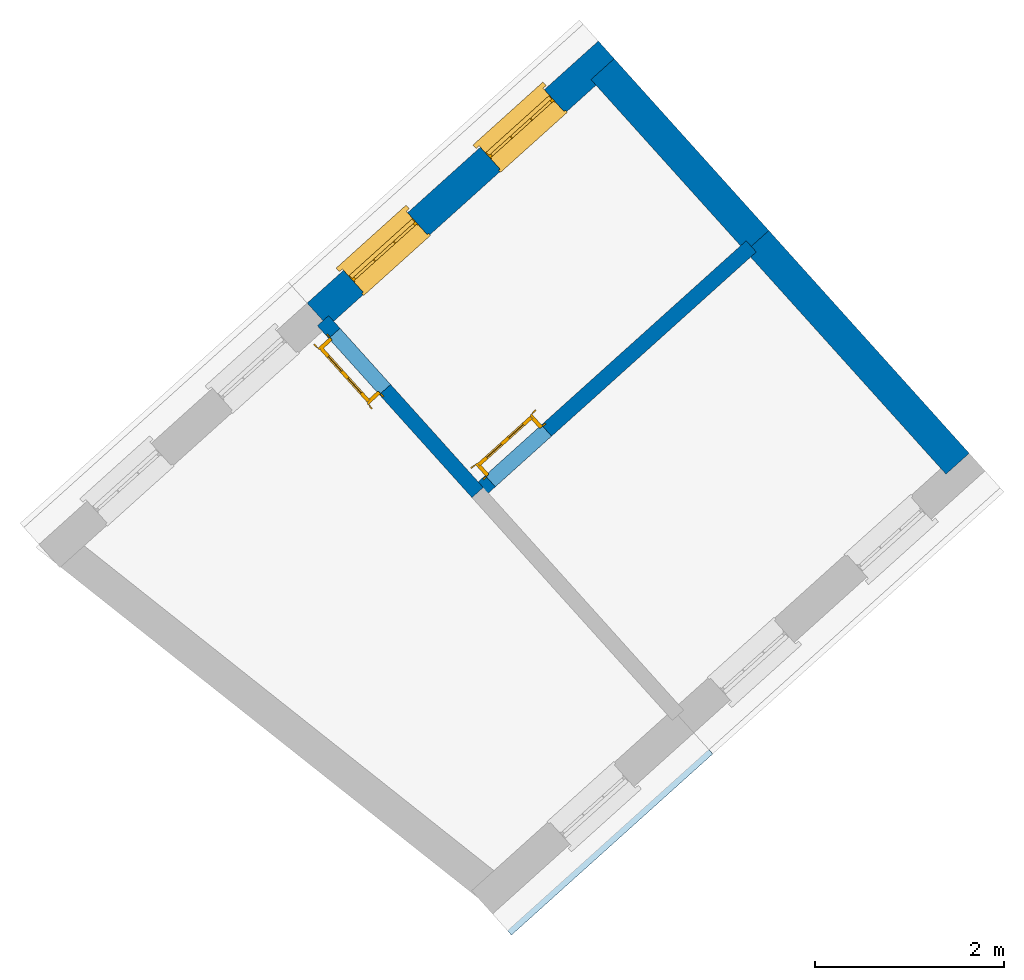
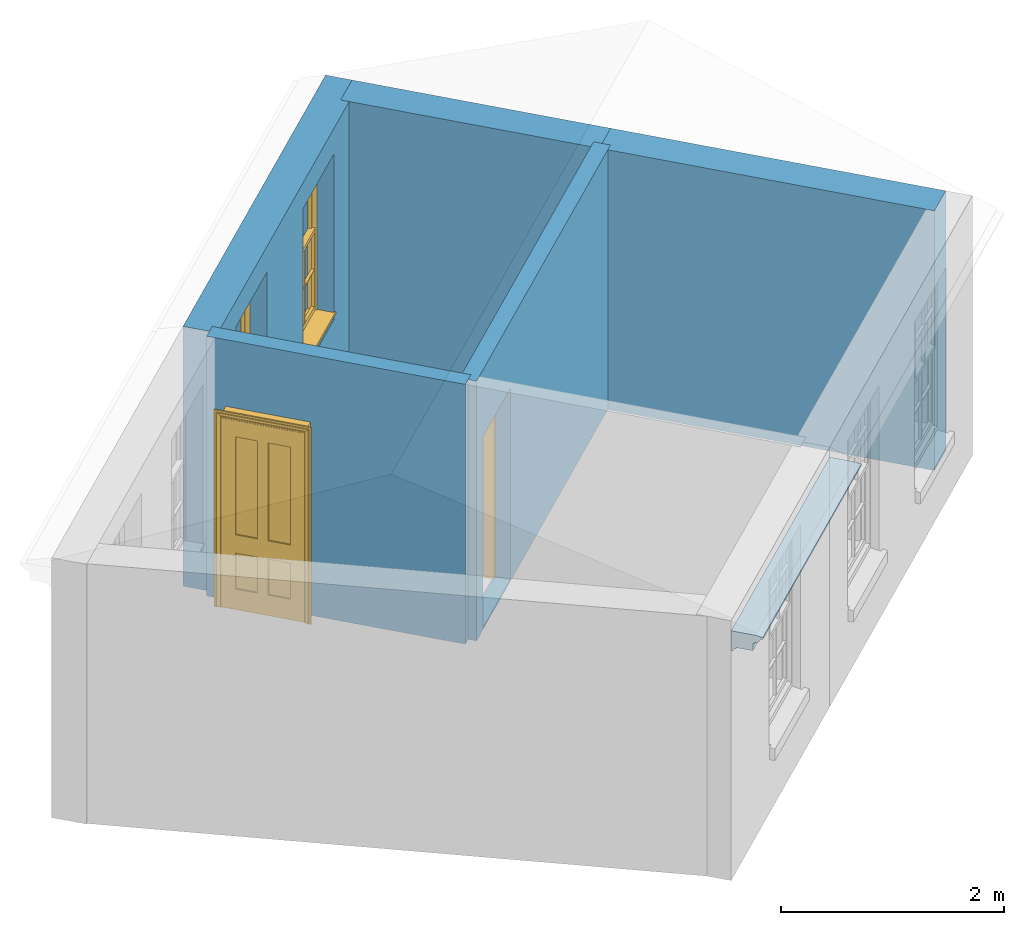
# One storey, part 2 of 3: 5 walls, 2 doors, 2 windows, 1 roof, 4 openings.
"""IFC4 building model written with IfcOpenShell, lengths in metres."""

from ifc_helpers import new_model, si_unit, frame, origin, origin_with_axes, place, context, subcontext, project, spatial, polyline, outline, extrude, clip, halfspace, faceted_brep, source, transform, mapped, material, layer, layer_set, layer_usage, material_profile, profile_set, profile_usage, type_object, type_shapes, element, fill, save


model = new_model("IFC4")

# Units and contexts
model_context = context("Model", 3, world=origin_with_axes())
body_context = subcontext(model_context, "Body", "Model", "MODEL_VIEW")
ifc_project = project(units=[si_unit("PLANEANGLEUNIT", "RADIAN"), si_unit("MASSUNIT", "GRAM", prefix="KILO"), si_unit("FORCEUNIT", "NEWTON", prefix="KILO"), si_unit("LENGTHUNIT", "METRE"), si_unit("AREAUNIT", "SQUARE_METRE"), si_unit("VOLUMEUNIT", "CUBIC_METRE")], contexts=[model_context, model_context])

# Sites, building, storey
site_1_placement = place(None, origin_with_axes())
site_1 = spatial("IfcSite", under=ifc_project, at=site_1_placement, Name="Tamar")
site_2_placement = place(site_1_placement, origin_with_axes())
site_2 = spatial("IfcSite", under=site_1, at=site_2_placement, Name="Site plot-6", CompositionType="ELEMENT")
building_placement = place(None, origin_with_axes())
building = spatial("IfcBuilding", under=site_2, at=building_placement, Name="Building plot-6", CompositionType="ELEMENT")
storey_placement = place(None, frame((0.0, 0.0, 31.7), z_axis=(0.0, 0.0, 1.0), x_axis=(1.0, 0.0, 0.0)))
storey = spatial("IfcBuildingStorey", under=building, at=storey_placement, Name="plot-6 2", CompositionType="ELEMENT", Elevation=31.7)

# Wall, openings, windows
ifc_material_1 = material(Name="Masonry")
ifc_layer_1 = layer(ifc_material_1, 0.33, ventilated=False)
ifc_layer_set_1 = layer_set([ifc_layer_1], Name="exterior_0.08_0.25")
ifc_layer_usage_1 = layer_usage(ifc_layer_set_1, "AXIS2", "POSITIVE", -0.25)
wall_type_1 = type_object("IfcWallType", Name="exterior_0.08_0.25", PredefinedType="SOLIDWALL", material=ifc_layer_set_1)
wall_1_placement = place(storey_placement, frame((236.903086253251, 284.792318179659, 0.0), z_axis=(0.0, 0.0, 1.0), x_axis=(-0.743394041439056, -0.668853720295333, 0.0)))
wall_1 = element("IfcWall", 1, at=wall_1_placement, inside=storey, type_object=wall_type_1, material=ifc_layer_usage_1, Name="exterior", context=body_context, shape_type="SweptSolid", body=[
    extrude(outline(polyline([(-0.250000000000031, 0.0799999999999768), (-0.250000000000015, -0.250000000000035), (3.89063342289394, -0.250000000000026), (3.89063342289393, 0.0799999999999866), (-0.250000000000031, 0.0799999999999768)])), origin_with_axes(), (0.0, 0.0, 1.0), 2.85),
])
opening_1_placement = place(wall_1_placement, frame((0.51765835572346, 0.0, 0.750000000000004)))
opening_1 = element("IfcOpeningElement", 2, at=opening_1_placement, cuts=wall_1, Name="My Opening", ObjectType="Opening", context=body_context, shape_type="SweptSolid", body=[
    extrude(outline(polyline([(0.0, -0.270000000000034), (0.910000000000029, -0.269999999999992), (0.910000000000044, 1.10000000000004), (1.4432899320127e-14, 1.1), (0.0, -0.270000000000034)])), origin_with_axes(), (0.0, 0.0, 1.0), 1.82),
])
opening_2_placement = place(wall_1_placement, frame((2.46297506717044, 0.0, 0.750000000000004)))
opening_2 = element("IfcOpeningElement", 3, at=opening_2_placement, cuts=wall_1, Name="My Opening", ObjectType="Opening", context=body_context, shape_type="SweptSolid", body=[
    extrude(outline(polyline([(0.0, -0.270000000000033), (0.910000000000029, -0.269999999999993), (0.910000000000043, 1.10000000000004), (1.37667655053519e-14, 1.1), (0.0, -0.270000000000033)])), origin_with_axes(), (0.0, 0.0, 1.0), 1.82),
])
window_type = type_object("IfcWindowType", Name="sash_big", PartitioningType="DOUBLE_PANEL_HORIZONTAL", PredefinedType="NOTDEFINED")
shared_shape_1 = source(origin(), body_context, "Body", "Brep", [
    faceted_brep([(0.033125, 0.145, 0.975209), (0.01, 0.145, 0.975209), (0.033125, 0.145, 1.376042), (0.876875, 0.145, 0.975209), (0.876875, 0.145, 1.376042), (0.9, 0.145, 0.975209), (0.876875, 0.145, 1.386042), (0.876875, 0.145, 1.786875), (0.9, 0.145, 1.81), (0.033125, 0.145, 1.786875), (0.033125, 0.145, 1.386042), (0.01, 0.145, 1.81), (0.876875, 0.115, 1.376042), (0.876875, 0.115, 0.975209), (0.9, 0.115, 0.937083), (0.033125, 0.115, 1.786875), (0.01, 0.115, 1.81), (0.033125, 0.115, 1.386042), (0.01, 0.115, 0.937083), (0.033125, 0.115, 0.975209), (0.033125, 0.115, 1.376042), (0.876875, 0.115, 1.786875), (0.876875, 0.115, 1.386042), (0.9, 0.115, 1.81), (0.033125, 0.145, 0.937083), (0.01, 0.145, 0.937083), (0.033125, 0.145, 0.53625), (0.876875, 0.145, 0.937083), (0.876875, 0.145, 0.53625), (0.9, 0.145, 0.937083), (0.876875, 0.145, 0.52625), (0.876875, 0.145, 0.125417), (0.9, 0.145, 0.077167), (0.033125, 0.145, 0.125417), (0.033125, 0.145, 0.52625), (0.01, 0.145, 0.077167), (-0.0425, 0.0, 0.01), (-0.0425, -0.05, 0.001667), (0.0, 0.0, 0.01), (0.9525, 0.0, 0.01), (0.91, 0.0, 0.01), (0.9525, -0.05, 0.001667), (-0.02, 0.33, 0.077167), (0.0, 0.33, 0.077167), (-0.02, 0.36, 0.077167), (0.0, 0.19, 0.077167), (0.01, 0.19, 0.077167), (0.91, 0.19, 0.077167), (0.91, 0.33, 0.077167), (0.9, 0.19, 0.077167), (0.93, 0.33, 0.077167), (0.93, 0.36, 0.077167), (0.01, 0.175, 0.975209), (0.9, 0.175, 0.975209), (0.876875, 0.175, 0.125417), (0.876875, 0.175, 0.52625), (0.9, 0.175, 0.077167), (0.876875, 0.175, 0.53625), (0.876875, 0.175, 0.937083), (0.033125, 0.175, 0.125417), (0.01, 0.175, 0.077167), (0.033125, 0.175, 0.52625), (0.033125, 0.175, 0.937083), (0.033125, 0.175, 0.53625), (-0.02, 0.33, 0.052167), (-0.02, 0.36, 0.052167), (0.93, 0.36, 0.052167), (0.93, 0.33, 0.052167), (0.91, 0.33, 0.052167), (0.0, 0.33, 0.052167), (0.91, 0.1, 0.026667), (0.0, 0.1, 0.026667), (-0.0425, -0.05, -0.123333), (0.9525, -0.05, -0.123333), (-0.0425, 0.0, -0.123333), (0.9525, 0.0, -0.123333), (0.01, 0.19, 1.81), (0.9, 0.19, 1.81), (0.0, 0.19, 1.82), (0.91, 0.19, 1.82), (0.01, 0.1, 0.077167), (0.9, 0.1, 0.077167), (0.592292, 0.145, 0.125417), (0.592292, 0.175, 0.125417), (0.317708, 0.175, 0.125417), (0.317708, 0.145, 0.125417), (0.592292, 0.145, 0.53625), (0.317708, 0.145, 0.53625), (0.317708, 0.145, 0.52625), (0.592292, 0.145, 0.52625), (0.592292, 0.175, 0.53625), (0.317708, 0.175, 0.53625), (0.592292, 0.115, 1.386042), (0.592292, 0.145, 1.386042), (0.317708, 0.145, 1.386042), (0.317708, 0.115, 1.386042), (0.317708, 0.115, 1.376042), (0.592292, 0.115, 1.376042), (0.317708, 0.145, 1.376042), (0.592292, 0.145, 1.376042), (0.602292, 0.115, 1.376042), (0.592292, 0.115, 0.975209), (0.602292, 0.115, 0.975209), (0.602292, 0.145, 0.975209), (0.592292, 0.145, 0.975209), (0.602292, 0.145, 1.376042), (0.602292, 0.175, 0.53625), (0.602292, 0.145, 0.53625), (0.317708, 0.175, 0.52625), (0.307708, 0.175, 0.125417), (0.307708, 0.175, 0.52625), (0.602292, 0.175, 0.52625), (0.602292, 0.175, 0.125417), (0.592292, 0.175, 0.52625), (0.307708, 0.175, 0.53625), (0.317708, 0.175, 0.937083), (0.307708, 0.175, 0.937083), (0.602292, 0.175, 0.937083), (0.592292, 0.175, 0.937083), (0.307708, 0.145, 0.52625), (0.307708, 0.145, 0.125417), (0.307708, 0.145, 0.53625), (0.307708, 0.145, 0.937083), (0.592292, 0.145, 0.937083), (0.317708, 0.145, 0.937083), (0.602292, 0.145, 0.937083), (0.602292, 0.145, 0.52625), (0.602292, 0.145, 0.125417), (0.307708, 0.115, 1.386042), (0.307708, 0.115, 1.376042), (0.307708, 0.115, 0.975209), (0.317708, 0.115, 0.975209), (0.317708, 0.115, 1.786875), (0.307708, 0.115, 1.786875), (0.602292, 0.115, 1.786875), (0.592292, 0.115, 1.786875), (0.602292, 0.115, 1.386042), (0.602292, 0.145, 1.386042), (0.307708, 0.145, 1.386042), (0.307708, 0.145, 1.786875), (0.317708, 0.145, 1.786875), (0.592292, 0.145, 1.786875), (0.602292, 0.145, 1.786875), (0.307708, 0.145, 1.376042), (0.317708, 0.145, 0.975209), (0.307708, 0.145, 0.975209), (0.91, 0.1, 1.82), (0.9, 0.1, 1.81), (0.01, 0.1, 1.81), (0.0, 0.1, 1.82), (0.91, 0.0, 0.0), (0.0, 0.0, 0.0), (0.91, 0.33, 0.0), (0.0, 0.33, 0.0)], [[[0, 1, 2]], [[3, 4, 5]], [[6, 7, 8]], [[9, 10, 11]], [[12, 13, 14]], [[15, 16, 17]], [[18, 19, 20]], [[21, 22, 23]], [[24, 25, 26]], [[27, 28, 29]], [[30, 31, 32]], [[33, 34, 35]], [[14, 27, 29]], [[25, 24, 18]], [[36, 37, 38]], [[39, 40, 41]], [[42, 43, 44]], [[45, 46, 43]], [[47, 48, 49]], [[50, 51, 48]], [[1, 0, 52]], [[5, 53, 3]], [[54, 55, 56]], [[57, 58, 53]], [[59, 60, 61]], [[62, 63, 52]], [[48, 43, 46, 49]], [[51, 44, 43, 48]], [[64, 42, 44, 65]], [[65, 44, 51, 66]], [[66, 51, 50, 67]], [[65, 66, 68, 69]], [[60, 56, 49, 46]], [[70, 71, 38, 40]], [[37, 41, 40, 38]], [[37, 72, 73, 41]], [[74, 75, 73, 72]], [[8, 11, 76, 77]], [[76, 78, 79, 77]], [[32, 35, 80, 81]], [[81, 80, 71, 70]], [[82, 83, 84, 85]], [[86, 87, 88, 89]], [[86, 90, 91, 87]], [[92, 93, 94, 95]], [[92, 95, 96, 97]], [[96, 98, 99, 97]], [[100, 97, 101, 102]], [[103, 104, 99, 105]], [[97, 99, 104, 101]], [[102, 103, 105, 100]], [[28, 57, 106, 107]], [[108, 84, 109, 110]], [[111, 112, 83, 113]], [[114, 110, 61, 63]], [[90, 113, 108, 91]], [[115, 91, 114, 116]], [[117, 106, 90, 118]], [[111, 106, 57, 55]], [[119, 110, 109, 120]], [[34, 61, 110, 119]], [[89, 113, 83, 82]], [[88, 108, 113, 89]], [[85, 84, 108, 88]], [[121, 114, 63, 26]], [[122, 116, 114, 121]], [[123, 118, 90, 86]], [[87, 91, 115, 124]], [[107, 106, 117, 125]], [[126, 111, 55, 30]], [[127, 112, 111, 126]], [[126, 30, 28, 107]], [[88, 119, 120, 85]], [[126, 89, 82, 127]], [[125, 123, 86, 107]], [[121, 26, 34, 119]], [[124, 122, 121, 87]], [[128, 17, 20, 129]], [[96, 129, 130, 131]], [[132, 133, 128, 95]], [[134, 135, 92, 136]], [[100, 12, 22, 136]], [[137, 6, 4, 105]], [[94, 138, 139, 140]], [[137, 93, 141, 142]], [[99, 98, 94, 93]], [[143, 2, 10, 138]], [[144, 145, 143, 98]], [[129, 143, 145, 130]], [[20, 2, 143, 129]], [[131, 144, 98, 96]], [[128, 138, 10, 17]], [[133, 139, 138, 128]], [[135, 141, 93, 92]], [[95, 94, 140, 132]], [[22, 6, 137, 136]], [[136, 137, 142, 134]], [[100, 105, 4, 12]], [[107, 86, 89, 126]], [[106, 111, 113, 90]], [[91, 108, 110, 114]], [[87, 121, 119, 88]], [[97, 100, 136, 92]], [[129, 96, 95, 128]], [[98, 143, 138, 94]], [[105, 99, 93, 137]], [[131, 101, 104, 144]], [[124, 115, 118, 123]], [[132, 140, 141, 135]], [[120, 109, 59, 33]], [[15, 9, 139, 133]], [[134, 142, 7, 21]], [[31, 54, 112, 127]], [[36, 74, 72, 37]], [[39, 41, 73, 75]], [[18, 14, 101, 131]], [[23, 16, 132, 135]], [[83, 56, 60, 84]], [[52, 53, 118, 115]], [[53, 52, 144, 104]], [[11, 8, 141, 140]], [[14, 18, 124, 123]], [[2, 1, 11, 10]], [[8, 5, 4, 6]], [[57, 53, 56, 55]], [[60, 52, 63, 61]], [[26, 25, 35, 34]], [[32, 29, 28, 30]], [[14, 23, 22, 12]], [[18, 20, 17, 16]], [[19, 0, 2, 20]], [[17, 10, 9, 15]], [[12, 4, 3, 13]], [[21, 7, 6, 22]], [[27, 58, 57, 28]], [[30, 55, 54, 31]], [[33, 59, 61, 34]], [[26, 63, 62, 24]], [[5, 8, 77, 53]], [[76, 11, 1, 52]], [[46, 45, 78, 76]], [[49, 77, 79, 47]], [[70, 146, 147, 81]], [[71, 80, 148, 149]], [[19, 130, 145, 0]], [[102, 13, 3, 103]], [[116, 122, 24, 62]], [[29, 32, 81, 14]], [[80, 35, 25, 18]], [[60, 46, 76, 52]], [[77, 49, 56, 53]], [[23, 14, 81, 147]], [[16, 148, 80, 18]], [[35, 85, 120]], [[120, 33, 35]], [[127, 82, 32]], [[32, 31, 127]], [[32, 82, 85, 35]], [[102, 101, 14]], [[14, 13, 102]], [[18, 131, 130]], [[130, 19, 18]], [[134, 21, 23]], [[23, 135, 134]], [[16, 15, 133]], [[133, 132, 16]], [[11, 140, 139]], [[139, 9, 11]], [[142, 141, 8]], [[8, 7, 142]], [[23, 147, 148, 16]], [[146, 149, 148, 147]], [[52, 115, 116]], [[116, 62, 52]], [[118, 53, 117]], [[58, 117, 53]], [[27, 125, 117, 58]], [[56, 83, 112]], [[112, 54, 56]], [[109, 84, 60]], [[60, 59, 109]], [[125, 27, 14]], [[14, 123, 125]], [[122, 124, 18]], [[18, 24, 122]], [[145, 144, 52]], [[52, 0, 145]], [[103, 3, 53]], [[53, 104, 103]], [[79, 78, 149, 146]], [[78, 45, 71, 149]], [[146, 70, 47, 79]], [[150, 75, 74, 151]], [[68, 66, 67]], [[48, 68, 67, 50]], [[69, 64, 65]], [[42, 64, 69, 43]], [[69, 68, 152, 153]], [[70, 68, 48, 47]], [[150, 152, 68, 70]], [[43, 69, 71, 45]], [[69, 153, 151, 71]], [[152, 150, 151, 153]], [[38, 151, 74, 36]], [[71, 151, 38]], [[39, 75, 150, 40]], [[40, 150, 70]]]),
])
type_shapes(window_type, [shared_shape_1])
window_1_placement = place(storey_placement, frame((236.337671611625, 284.64679685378, 0.750000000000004), z_axis=(0.0, 0.0, 1.0), x_axis=(-0.676488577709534, -0.608656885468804, 0.0)))
window_1 = element("IfcWindow", 4, at=window_1_placement, inside=storey, type_object=window_type, Name="circulation outside window", OverallHeight=1.82, OverallWidth=0.91, context=body_context, shape_type="MappedRepresentation", body=[
    mapped(shared_shape_1, transform((0.0, 0.0, 0.0), scale=1.0)),
])
fill(opening_1, window_1)
window_2_placement = place(storey_placement, frame((234.891534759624, 283.345664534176, 0.750000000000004), z_axis=(0.0, 0.0, 1.0), x_axis=(-0.676488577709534, -0.608656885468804, 0.0)))
window_2 = element("IfcWindow", 5, at=window_2_placement, inside=storey, type_object=window_type, Name="circulation outside window", OverallHeight=1.82, OverallWidth=0.91, context=body_context, shape_type="MappedRepresentation", body=[
    mapped(shared_shape_1, transform((0.0, 0.0, 0.0), scale=1.0)),
])
fill(opening_2, window_2)

# Walls
ifc_material_2 = material(Name="Masonry")
ifc_layer_2 = layer(ifc_material_2, 0.33, ventilated=False)
ifc_layer_set_2 = layer_set([ifc_layer_2], Name="party_0.08_0.25")
ifc_layer_usage_2 = layer_usage(ifc_layer_set_2, "AXIS2", "POSITIVE", -0.25)
wall_type_2 = type_object("IfcWallType", Name="party_0.08_0.25", PredefinedType="SOLIDWALL", material=ifc_layer_set_2)
wall_2_placement = place(storey_placement, frame((240.655799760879, 280.621383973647, 0.0), z_axis=(0.0, 0.0, 1.0), x_axis=(-0.668853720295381, 0.743394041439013, 0.0)))
element("IfcWall", 6, at=wall_2_placement, inside=storey, type_object=wall_type_2, material=ifc_layer_usage_2, Name="party", context=body_context, shape_type="SweptSolid", body=[
    extrude(outline(polyline([(-2.09120248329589e-15, 0.080000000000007), (-6.97909697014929e-15, -0.250000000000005), (3.16673048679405, -0.250000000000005), (3.16673048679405, 0.0800000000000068), (-2.09120248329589e-15, 0.080000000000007)])), origin_with_axes(), (0.0, 0.0, 1.0), 2.85),
])
wall_3_placement = place(storey_placement, frame((238.537720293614, 282.975512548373, 0.0), z_axis=(0.0, 0.0, 1.0), x_axis=(-0.668853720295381, 0.743394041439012, 0.0)))
element("IfcWall", 7, at=wall_3_placement, inside=storey, type_object=wall_type_2, material=ifc_layer_usage_2, Name="party", context=body_context, shape_type="SweptSolid", body=[
    extrude(outline(polyline([(-2.09120248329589e-15, 0.080000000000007), (-6.97909697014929e-15, -0.250000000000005), (2.44393353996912, -0.250000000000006), (2.44393353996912, 0.0800000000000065), (-2.09120248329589e-15, 0.080000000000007)])), origin_with_axes(), (0.0, 0.0, 1.0), 2.85),
])

# Wall, opening, door
ifc_material_3 = material(Name="Masonry")
ifc_layer_3 = layer(ifc_material_3, 0.16, ventilated=False)
ifc_layer_set_3 = layer_set([ifc_layer_3], Name="interior_0.08_0.08")
ifc_layer_usage_3 = layer_usage(ifc_layer_set_3, "AXIS2", "POSITIVE", -0.08)
wall_type_3 = type_object("IfcWallType", Name="interior_0.08_0.08", PredefinedType="SOLIDWALL", material=ifc_layer_set_3)
wall_4_placement = place(storey_placement, frame((235.645446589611, 280.373247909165, 0.0), z_axis=(0.0, 0.0, 1.0), x_axis=(0.743394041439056, 0.668853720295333, 0.0)))
wall_4 = element("IfcWall", 8, at=wall_4_placement, inside=storey, type_object=wall_type_3, material=ifc_layer_usage_3, Name="interior", context=body_context, shape_type="SweptSolid", body=[
    extrude(outline(polyline([(-2.62141283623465e-14, 0.0799999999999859), (2.62416891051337e-14, -0.0799999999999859), (3.89063342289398, -0.0799999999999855), (3.89063342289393, 0.0799999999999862), (-2.62141283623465e-14, 0.0799999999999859)])), origin_with_axes(), (0.0, 0.0, 1.0), 2.85),
])
opening_3_placement = place(wall_4_placement, frame((0.179999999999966, 0.0, 0.0199999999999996)))
opening_3 = element("IfcOpeningElement", 9, at=opening_3_placement, cuts=wall_4, Name="My Opening", ObjectType="Opening", context=body_context, shape_type="SweptSolid", body=[
    extrude(outline(polyline([(0.0, -0.100000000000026), (0.800000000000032, -0.0999999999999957), (0.800000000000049, 1.10000000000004), (1.62092561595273e-14, 1.10000000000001), (0.0, -0.100000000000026)])), origin_with_axes(), (0.0, 0.0, 1.0), 2.1),
])
door_type = type_object("IfcDoorType", Name="door_inside", OperationType="SINGLE_SWING_LEFT", PredefinedType="NOTDEFINED")
shared_shape_2 = source(origin(), body_context, "Body", "Brep", [
    faceted_brep([(0.773, 0.33, 1.895), (0.66, 0.33, 1.895), (0.66, 0.33, 2.073), (0.773, 0.33, 2.073), (0.773, 0.33, 0.82), (0.66, 0.33, 0.82), (0.45, 0.33, 1.895), (0.45, 0.33, 2.073), (0.773, 0.33, 0.62), (0.66, 0.33, 0.62), (0.66, 0.315, 0.82), (0.66, 0.315, 1.895), (0.45, 0.315, 1.895), (0.35, 0.33, 1.895), (0.35, 0.33, 2.073), (0.773, 0.33, 0.225), (0.66, 0.33, 0.225), (0.45, 0.33, 0.62), (0.45, 0.33, 0.82), (0.45, 0.315, 0.82), (0.35, 0.33, 0.82), (0.14, 0.33, 2.073), (0.14, 0.33, 1.895), (0.773, 0.33, 0.0), (0.66, 0.33, 0.0), (0.66, 0.315, 0.225), (0.66, 0.315, 0.62), (0.45, 0.315, 0.62), (0.35, 0.33, 0.62), (0.35, 0.315, 0.82), (0.35, 0.315, 1.895), (0.14, 0.315, 1.895), (0.027, 0.33, 2.073), (0.027, 0.33, 1.895), (0.773, 0.292, 0.0), (0.66, 0.292, 0.0), (0.45, 0.33, 0.0), (0.45, 0.33, 0.225), (0.45, 0.315, 0.225), (0.35, 0.33, 0.225), (0.14, 0.33, 0.82), (0.14, 0.33, 0.62), (0.14, 0.315, 0.82), (0.027, 0.33, 0.82), (0.773, 0.292, 0.225), (0.66, 0.292, 0.225), (0.45, 0.292, 0.0), (0.35, 0.33, 0.0), (0.35, 0.315, 0.225), (0.35, 0.315, 0.62), (0.14, 0.315, 0.62), (0.027, 0.33, 0.62), (0.773, 0.292, 0.62), (0.66, 0.292, 0.62), (0.45, 0.292, 0.225), (0.35, 0.292, 0.0), (0.14, 0.33, 0.225), (0.14, 0.33, 0.0), (0.14, 0.315, 0.225), (0.027, 0.33, 0.225), (0.773, 0.292, 0.82), (0.66, 0.292, 0.82), (0.66, 0.307, 0.62), (0.66, 0.307, 0.225), (0.45, 0.307, 0.225), (0.35, 0.292, 0.225), (0.14, 0.292, 0.0), (0.027, 0.33, 0.0), (0.773, 0.292, 1.895), (0.66, 0.292, 1.895), (0.45, 0.292, 0.62), (0.45, 0.292, 0.82), (0.45, 0.307, 0.62), (0.35, 0.292, 0.62), (0.14, 0.292, 0.225), (0.027, 0.292, 0.0), (0.773, 0.292, 2.073), (0.66, 0.292, 2.073), (0.66, 0.307, 1.895), (0.66, 0.307, 0.82), (0.45, 0.307, 0.82), (0.35, 0.292, 0.82), (0.35, 0.307, 0.62), (0.35, 0.307, 0.225), (0.14, 0.307, 0.225), (0.027, 0.292, 0.225), (0.45, 0.292, 1.895), (0.45, 0.292, 2.073), (0.45, 0.307, 1.895), (0.35, 0.292, 1.895), (0.14, 0.292, 0.82), (0.14, 0.292, 0.62), (0.14, 0.307, 0.62), (0.027, 0.292, 0.62), (0.35, 0.292, 2.073), (0.35, 0.307, 1.895), (0.35, 0.307, 0.82), (0.14, 0.307, 0.82), (0.027, 0.292, 0.82), (0.14, 0.292, 2.073), (0.14, 0.292, 1.895), (0.14, 0.307, 1.895), (0.027, 0.292, 1.895), (0.027, 0.292, 2.073), (0.02, 0.335, 0.0), (0.005, 0.34, 0.0), (0.005, 0.34, 2.095), (0.02, 0.335, 2.08), (0.02, 0.33, 0.0), (0.0, 0.335, 0.0), (0.0, 0.335, 2.1), (0.795, 0.34, 2.095), (0.78, 0.335, 2.08), (0.02, 0.33, 2.08), (0.0, 0.33, 0.0), (-0.032, 0.345, 0.0), (-0.032, 0.345, 2.132), (0.8, 0.335, 2.1), (0.795, 0.34, 0.0), (0.78, 0.335, 0.0), (0.78, 0.33, 2.08), (0.04, 0.29, 0.0), (0.025, 0.29, 0.0), (0.025, 0.29, 2.075), (0.04, 0.29, 2.06), (-0.04, 0.34, 0.0), (-0.04, 0.34, 2.14), (0.832, 0.345, 2.132), (0.8, 0.335, 0.0), (0.78, 0.33, 0.0), (0.8, 0.33, 0.0), (0.86, 0.33, 0.0), (0.86, 0.33, 2.16), (0.8, 0.33, 2.1), (-0.06, 0.33, 2.16), (0.0, 0.33, 2.1), (-0.06, 0.33, 0.0), (-0.04, 0.345, 0.0), (-0.04, 0.345, 2.14), (0.84, 0.34, 2.14), (0.832, 0.345, 0.0), (0.84, 0.34, 0.0), (0.86, 0.345, 0.0), (0.86, 0.345, 2.16), (-0.06, 0.345, 2.16), (-0.06, 0.345, 0.0), (0.84, 0.345, 0.0), (0.84, 0.345, 2.14), (-0.025, 0.155, 0.0), (-0.025, 0.16, 0.0), (-0.025, 0.16, 2.125), (-0.025, 0.155, 2.125), (-0.017, 0.155, 0.0), (-0.017, 0.155, 2.117), (0.825, 0.16, 2.125), (0.825, 0.155, 2.125), (0.825, 0.155, 0.0), (0.845, 0.155, 0.0), (-0.045, 0.155, 2.145), (-0.045, 0.155, 0.0), (0.845, 0.155, 2.145), (0.015, 0.165, 0.0), (0.015, 0.165, 2.085), (0.817, 0.155, 2.117), (0.825, 0.16, 0.0), (0.845, 0.17, 0.0), (0.845, 0.17, 2.145), (-0.045, 0.17, 2.145), (-0.045, 0.17, 0.0), (0.02, 0.16, 0.0), (0.02, 0.16, 2.08), (0.785, 0.165, 2.085), (0.817, 0.155, 0.0), (0.8, 0.17, 0.0), (0.8, 0.17, 2.1), (0.0, 0.17, 2.1), (0.0, 0.17, 0.0), (0.035, 0.165, 0.0), (0.035, 0.165, 2.065), (0.78, 0.16, 2.08), (0.785, 0.165, 0.0), (0.775, 0.29, 2.075), (0.76, 0.29, 2.06), (0.035, 0.17, 2.065), (0.035, 0.17, 0.0), (0.765, 0.165, 2.065), (0.78, 0.16, 0.0), (0.765, 0.17, 0.0), (0.765, 0.17, 2.065), (0.765, 0.165, 0.0), (0.04, 0.17, 2.06), (0.04, 0.17, 0.0), (0.76, 0.17, 2.06), (0.76, 0.17, 0.0), (0.76, 0.29, 0.0), (0.775, 0.29, 0.0), (0.025, 0.33, 0.0), (0.025, 0.33, 2.075), (0.775, 0.33, 0.0), (0.775, 0.33, 2.075)], [[[0, 1, 2, 3]], [[1, 0, 4, 5]], [[1, 6, 7, 2]], [[8, 9, 5, 4]], [[1, 5, 10, 11]], [[6, 1, 11, 12]], [[6, 13, 14, 7]], [[15, 16, 9, 8]], [[9, 17, 18, 5]], [[5, 18, 19, 10]], [[10, 19, 12, 11]], [[18, 6, 12, 19]], [[18, 20, 13, 6]], [[21, 14, 13, 22]], [[23, 24, 16, 15]], [[9, 16, 25, 26]], [[17, 9, 26, 27]], [[17, 28, 20, 18]], [[13, 20, 29, 30]], [[22, 13, 30, 31]], [[32, 21, 22, 33]], [[34, 35, 24, 23]], [[24, 36, 37, 16]], [[16, 37, 38, 25]], [[25, 38, 27, 26]], [[37, 17, 27, 38]], [[37, 39, 28, 17]], [[40, 20, 28, 41]], [[20, 40, 42, 29]], [[31, 30, 29, 42]], [[40, 22, 31, 42]], [[33, 22, 40, 43]], [[35, 34, 44, 45]], [[35, 46, 36, 24]], [[36, 47, 39, 37]], [[28, 39, 48, 49]], [[41, 28, 49, 50]], [[43, 40, 41, 51]], [[45, 44, 52, 53]], [[46, 35, 45, 54]], [[46, 55, 47, 36]], [[56, 39, 47, 57]], [[39, 56, 58, 48]], [[50, 49, 48, 58]], [[56, 41, 50, 58]], [[51, 41, 56, 59]], [[53, 52, 60, 61]], [[45, 53, 62, 63]], [[54, 45, 63, 64]], [[55, 46, 54, 65]], [[55, 66, 57, 47]], [[59, 56, 57, 67]], [[61, 60, 68, 69]], [[70, 53, 61, 71]], [[53, 70, 72, 62]], [[72, 64, 63, 62]], [[70, 54, 64, 72]], [[65, 54, 70, 73]], [[65, 74, 66, 55]], [[67, 57, 66, 75]], [[69, 68, 76, 77]], [[61, 69, 78, 79]], [[71, 61, 79, 80]], [[73, 70, 71, 81]], [[65, 73, 82, 83]], [[74, 65, 83, 84]], [[74, 85, 75, 66]], [[86, 69, 77, 87]], [[69, 86, 88, 78]], [[88, 80, 79, 78]], [[86, 71, 80, 88]], [[81, 71, 86, 89]], [[73, 81, 90, 91]], [[73, 91, 92, 82]], [[83, 82, 92, 84]], [[91, 74, 84, 92]], [[91, 93, 85, 74]], [[89, 86, 87, 94]], [[81, 89, 95, 96]], [[90, 81, 96, 97]], [[90, 98, 93, 91]], [[94, 99, 100, 89]], [[89, 100, 101, 95]], [[101, 97, 96, 95]], [[100, 90, 97, 101]], [[100, 102, 98, 90]], [[99, 103, 102, 100]], [[32, 103, 99, 21]], [[102, 103, 32, 33]], [[98, 102, 33, 43]], [[21, 99, 94, 14]], [[94, 87, 7, 14]], [[7, 87, 77, 2]], [[76, 3, 2, 77]], [[43, 51, 93, 98]], [[51, 59, 85, 93]], [[67, 75, 85, 59]], [[34, 23, 15, 44]], [[44, 15, 8, 52]], [[52, 8, 4, 60]], [[0, 68, 60, 4]], [[0, 3, 76, 68]], [[104, 105, 106, 107]], [[104, 108, 109, 105]], [[105, 109, 110, 106]], [[107, 106, 111, 112]], [[107, 113, 108, 104]], [[114, 109, 108]], [[109, 115, 116, 110]], [[106, 110, 117, 111]], [[112, 111, 118, 119]], [[113, 107, 112, 120]], [[121, 122, 123, 124]], [[115, 109, 114, 125]], [[115, 125, 126, 116]], [[110, 116, 127, 117]], [[111, 117, 128, 118]], [[118, 128, 129, 119]], [[120, 112, 119, 129]], [[130, 129, 128]], [[130, 131, 132, 133]], [[133, 132, 134, 135]], [[135, 134, 136, 114]], [[136, 125, 114]], [[125, 137, 138, 126]], [[116, 126, 139, 127]], [[117, 127, 140, 128]], [[141, 130, 128, 140]], [[131, 130, 141]], [[131, 142, 143, 132]], [[132, 143, 144, 134]], [[134, 144, 145, 136]], [[137, 125, 136, 145]], [[143, 142, 146]], [[143, 146, 147]], [[137, 145, 144]], [[143, 147, 138]], [[138, 137, 144]], [[143, 138, 144]], [[126, 138, 147, 139]], [[127, 139, 141, 140]], [[142, 131, 141, 146]], [[139, 147, 146, 141]], [[148, 149, 150, 151]], [[149, 152, 153, 150]], [[151, 150, 154, 155]], [[155, 156, 157]], [[158, 159, 148]], [[158, 148, 151]], [[155, 157, 160]], [[158, 151, 155]], [[155, 160, 158]], [[152, 161, 162, 153]], [[150, 153, 163, 154]], [[155, 154, 164, 156]], [[156, 164, 165, 157]], [[157, 165, 166, 160]], [[160, 166, 167, 158]], [[158, 167, 168, 159]], [[161, 169, 170, 162]], [[153, 162, 171, 163]], [[154, 163, 172, 164]], [[165, 164, 173]], [[165, 173, 174, 166]], [[166, 174, 175, 167]], [[167, 175, 176, 168]], [[169, 177, 178, 170]], [[162, 170, 179, 171]], [[163, 171, 180, 172]], [[172, 180, 173, 164]], [[124, 123, 181, 182]], [[183, 178, 177, 184]], [[170, 178, 185, 179]], [[171, 179, 186, 180]], [[187, 173, 180]], [[185, 188, 187, 189]], [[188, 185, 178, 183]], [[179, 185, 189, 186]], [[189, 187, 180, 186]], [[190, 183, 184, 191]], [[192, 188, 183, 190]], [[191, 184, 122, 121]], [[124, 190, 191, 121]], [[193, 187, 188, 192]], [[182, 192, 190, 124]], [[184, 176, 122]], [[194, 195, 187, 193]], [[192, 182, 194, 193]], [[161, 176, 184]], [[114, 108, 122, 176]], [[173, 187, 195]], [[152, 149, 176, 161]], [[169, 161, 184, 177]], [[196, 122, 108]], [[176, 175, 135, 114]], [[173, 195, 129, 130]], [[176, 149, 168]], [[123, 122, 196, 197]], [[196, 108, 113, 197]], [[175, 174, 133, 135]], [[198, 129, 195]], [[133, 174, 173, 130]], [[159, 168, 149, 148]], [[181, 123, 197, 199]], [[197, 113, 120, 199]], [[199, 120, 129, 198]], [[195, 181, 199, 198]], [[195, 194, 182, 181]]]),
])
type_shapes(door_type, [shared_shape_2])
door_1_placement = place(storey_placement, frame((235.8461428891, 280.419302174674, 0.0199999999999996), z_axis=(0.0, 0.0, 1.0), x_axis=(0.594715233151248, 0.535082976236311, 0.0)))
door_1 = element("IfcDoor", 10, at=door_1_placement, inside=storey, type_object=door_type, Name="toilet inside door", OverallHeight=2.1, OverallWidth=0.8, context=body_context, shape_type="MappedRepresentation", body=[
    mapped(shared_shape_2, transform((0.0, 0.0, 0.0), scale=1.0)),
])
fill(opening_3, door_1)

wall_5_placement = place(storey_placement, frame((235.645446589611, 280.373247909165, 0.0), z_axis=(0.0, 0.0, 1.0), x_axis=(-0.668853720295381, 0.743394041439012, 0.0)))
wall_5 = element("IfcWall", 11, at=wall_5_placement, inside=storey, type_object=wall_type_3, material=ifc_layer_usage_3, Name="interior", context=body_context, shape_type="SweptSolid", body=[
    extrude(outline(polyline([(-2.09120248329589e-15, 0.080000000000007), (2.08323608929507e-15, -0.080000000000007), (2.44393353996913, -0.0800000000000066), (2.44393353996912, 0.0800000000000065), (-2.09120248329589e-15, 0.080000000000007)])), origin_with_axes(), (0.0, 0.0, 1.0), 2.85),
])
opening_4_placement = place(wall_5_placement, frame((1.46393353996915, 0.0, 0.0199999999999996)))
opening_4 = element("IfcOpeningElement", 12, at=opening_4_placement, cuts=wall_5, Name="My Opening", ObjectType="Opening", context=body_context, shape_type="SweptSolid", body=[
    extrude(outline(polyline([(0.0, -0.100000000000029), (0.79999999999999, -0.100000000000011), (0.799999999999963, 1.10000000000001), (-2.70894418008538e-14, 1.1), (0.0, -0.100000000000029)])), origin_with_axes(), (0.0, 0.0, 1.0), 2.1),
])
door_2_placement = place(storey_placement, frame((234.740628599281, 281.52841275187, 0.0199999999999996), z_axis=(0.0, 0.0, 1.0), x_axis=(-0.535082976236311, 0.594715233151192, 0.0)))
door_2 = element("IfcDoor", 13, at=door_2_placement, inside=storey, type_object=door_type, Name="bedroom inside door", OverallHeight=2.1, OverallWidth=0.8, context=body_context, shape_type="MappedRepresentation", body=[
    mapped(shared_shape_2, transform((0.0, 0.0, 0.0), scale=1.0)),
])
fill(opening_4, door_2)

# Roof
ifc_material_profile = material_profile(None, outline(polyline([(0.25, -0.11), (0.25, -0.33), (0.265, -0.33), (0.268, -0.318), (0.274, -0.309), (0.283, -0.303), (0.295, -0.3), (0.295, -0.285), (0.455, -0.285), (0.455, -0.205), (0.47, -0.205), (0.47, -0.19), (0.483, -0.189), (0.494, -0.186), (0.506, -0.179), (0.514, -0.17), (0.52, -0.16), (0.529, -0.149), (0.539, -0.143), (0.55, -0.14), (0.55, -0.12), (0.48, -0.11), (0.25, -0.11)])))
ifc_profile_set = profile_set([ifc_material_profile])
ifc_profile_usage = profile_usage(ifc_profile_set)
roof_type = type_object("IfcRoofType", Name="eaves_0", PredefinedType="FREEFORM", material=ifc_profile_set)
roof_placement = place(storey_placement, frame((238.506920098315, 278.687973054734, 2.85), z_axis=(-0.743394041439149, -0.66885372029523, 0.0), x_axis=(0.66885372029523, -0.743394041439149, 0.0)))
element("IfcRoof", 14, at=roof_placement, inside=storey, type_object=roof_type, material=ifc_profile_usage, Name="eaves_0", context=body_context, shape_type="Clipping", body=[
    clip(clip(extrude(outline(polyline([(0.25, -0.11), (0.25, -0.33), (0.265, -0.33), (0.268, -0.318), (0.274, -0.309), (0.283, -0.303), (0.295, -0.3), (0.295, -0.285), (0.455, -0.285), (0.455, -0.205), (0.47, -0.205), (0.47, -0.19), (0.483, -0.189), (0.494, -0.186), (0.506, -0.179), (0.514, -0.17), (0.52, -0.16), (0.529, -0.149), (0.539, -0.143), (0.55, -0.14), (0.55, -0.12), (0.48, -0.11), (0.25, -0.11)])), origin_with_axes(), (0.0, 0.0, 1.0), 4.8626425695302), halfspace(frame((0.0, 0.0, 3.8626425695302), z_axis=(6.15601659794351e-15, 0.0, -1.0), x_axis=(0.0, 1.0, 0.0)), True)), halfspace(frame((0.0, 0.0, 1.0), z_axis=(6.15601659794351e-15, 0.0, -1.0), x_axis=(0.0, 1.0, 0.0)), False)),
])

save(model, "model.ifc")
